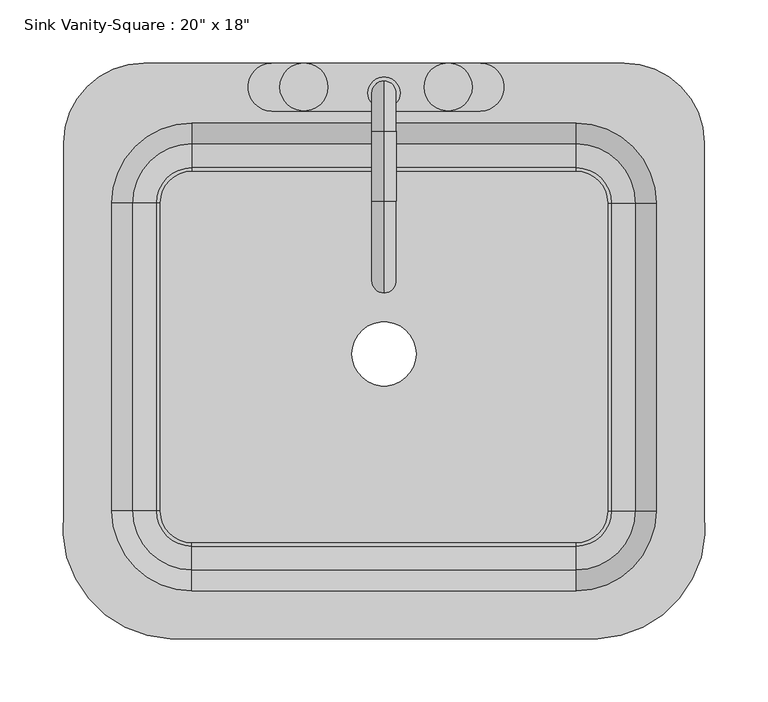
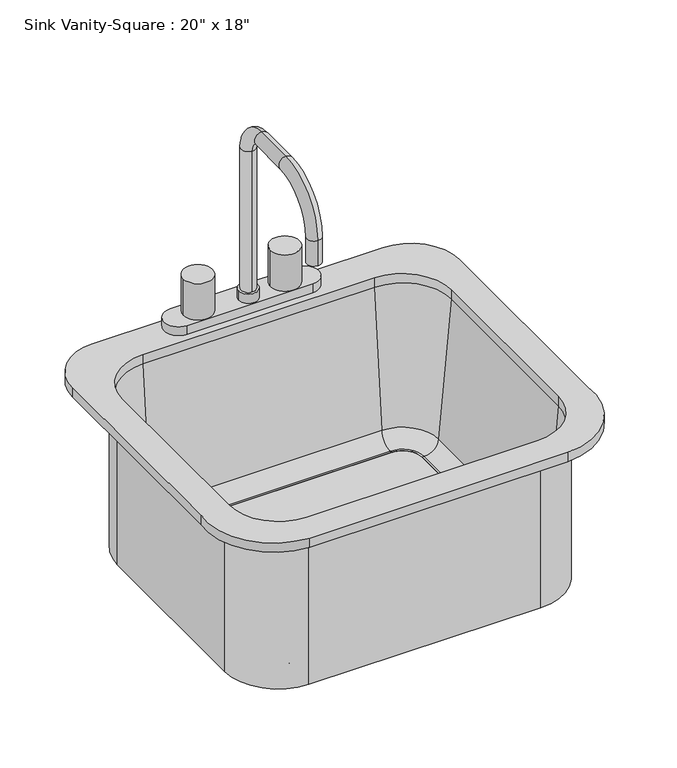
"""IFC4 building model written with IfcOpenShell, lengths in millimetres: flow terminal geometry."""

from ifc_helpers import new_model, si_unit, point, frame, frame_2d, origin, place, context, project, spatial, polyline, circle_curve, ellipse_curve, trimmed, segment, composite_curve, outline, extrude, source, transform, mapped, element, save
from ifc_brep_helpers import plane_surface, cylinder_surface, revolved_surface, advanced_brep


def flow_terminal_62a433f7(model_context):
    return source(origin(), model_context, "Body", "SolidModel", [
        advanced_brep(
        [(-153.9606923, -277.0545989, 800.1), (185.3391735, -277.0545989, 800.1), (269.6892406, -175.4545989, 800.1), (269.6892406, 116.6454011, 800.1), (206.1892406, 180.1454011, 800.1), (-174.8107593, 180.1454011, 800.1), (-238.3107593, 116.6454011, 800.1), (-238.3107593, -175.4545982, 800.1), (168.0892406, 132.5204011, 800.1), (231.5892406, 69.0204011, 800.1), (231.5892406, -175.4545989, 800.1), (168.0892406, -238.9545989, 800.1), (-136.7107594, -238.9545989, 800.1), (-200.2107594, -175.4545989, 800.1), (-200.2107594, 69.0204011, 800.1), (-136.7107594, 132.5204011, 800.1), (-153.9606923, -277.0545989, 787.4), (-238.3107593, -175.4545982, 787.4), (-238.3107593, 116.6454011, 787.4), (-174.8107593, 180.1454011, 787.4), (206.1892406, 180.1454011, 787.4), (269.6892406, 116.6454011, 787.4), (269.6892406, -175.4545989, 787.4), (185.3391735, -277.0545989, 787.4), (237.9392406, 69.0204011, 787.4), (168.0892406, 138.8704011, 787.4), (-136.7107594, 138.8704011, 787.4), (-206.5607594, 69.0204011, 787.4), (-206.5607594, -175.4545989, 787.4), (-136.7107594, -245.3045989, 787.4), (168.0892406, -245.3045989, 787.4), (237.9392406, -175.4545989, 787.4), (168.0892406, 132.5204011, 787.4), (231.5892406, 69.0204011, 787.4), (231.5892406, -175.4545989, 787.4), (168.0892406, -238.9545989, 787.4), (-136.7107594, -238.9545989, 787.4), (-200.2107594, -175.4545989, 787.4), (-200.2107594, 69.0204011, 787.4), (-136.7107594, 132.5204011, 787.4), (237.9392406, 69.0204011, 571.5), (168.0892406, 138.8704011, 571.5), (193.4892406, 69.0204011, 571.5), (168.0892406, 94.4204011, 571.5), (193.4892406, 69.0204011, 581.025), (168.0892406, 94.4204011, 581.025), (196.0776588, 69.0204011, 581.025), (168.0892406, 97.0088193, 581.025), (215.0551678, 69.0204011, 598.4146831), (168.0892406, 115.9863283, 598.4146831), (237.9392406, -175.4545989, 571.5), (193.4892406, -175.4545989, 571.5), (193.4892406, -175.4545989, 581.025), (196.0776588, -175.4545989, 581.025), (215.0551678, -175.4545989, 598.4146831), (168.0892406, -245.3045989, 571.5), (168.0892406, -200.8545989, 571.5), (168.0892406, -200.8545989, 581.025), (168.0892406, -203.4430171, 581.025), (168.0892406, -222.4205261, 598.4146831), (-136.7107594, -245.3045989, 571.5), (-136.7107594, -200.8545989, 571.5), (-136.7107594, -200.8545989, 581.025), (-136.7107594, -203.4430171, 581.025), (-136.7107594, -222.4205261, 598.4146831), (-206.5607594, -175.4545989, 571.5), (-162.1107594, -175.4545989, 571.5), (-162.1107594, -175.4545989, 581.025), (-164.6991776, -175.4545989, 581.025), (-183.6766866, -175.4545989, 598.4146831), (-206.5607594, 69.0204011, 571.5), (-162.1107594, 69.0204011, 571.5), (-162.1107594, 69.0204011, 581.025), (-164.6991776, 69.0204011, 581.025), (-183.6766866, 69.0204011, 598.4146831), (-136.7107594, 138.8704011, 571.5), (-136.7107594, 94.4204011, 571.5), (-136.7107594, 94.4204011, 581.025), (-136.7107594, 97.0088193, 581.025), (-136.7107594, 115.9863283, 598.4146831)],
        [
            (0, 1),
            (1, 2, circle_curve(frame((181.5319557, -188.0793432, 800.1), z_axis=(0.0, 0.0, 1.0), x_axis=(1.0, 0.0, 0.0)), 89.0566732)),
            (2, 3),
            (3, 4, circle_curve(frame((206.1892406, 116.6454011, 800.1), z_axis=(0.0, 0.0, 1.0), x_axis=(1.0, 0.0, 0.0)), 63.5)),
            (4, 5),
            (5, 6, circle_curve(frame((-174.8107593, 116.6454011, 800.1), z_axis=(0.0, 0.0, 1.0), x_axis=(1.0, 0.0, 0.0)), 63.5)),
            (6, 7),
            (7, 0, circle_curve(frame((-150.1534746, -188.0793432, 800.1), z_axis=(0.0, 0.0, 1.0), x_axis=(1.0, 0.0, 0.0)), 89.0566732)),
            (8, 9, circle_curve(frame((168.0892406, 69.0204011, 800.1), z_axis=(0.0, 0.0, -1.0), x_axis=(1.0, 0.0, 0.0)), 63.5)),
            (9, 10),
            (10, 11, circle_curve(frame((168.0892406, -175.4545989, 800.1), z_axis=(0.0, 0.0, -1.0), x_axis=(1.0, 0.0, 0.0)), 63.5)),
            (11, 12),
            (12, 13, circle_curve(frame((-136.7107594, -175.4545989, 800.1), z_axis=(0.0, 0.0, -1.0), x_axis=(1.0, 0.0, 0.0)), 63.5)),
            (13, 14),
            (14, 15, circle_curve(frame((-136.7107594, 69.0204011, 800.1), z_axis=(0.0, 0.0, -1.0), x_axis=(1.0, 0.0, 0.0)), 63.5)),
            (15, 8),
            (16, 17, circle_curve(frame((-150.1534746, -188.0793432, 787.4), z_axis=(0.0, 0.0, -1.0), x_axis=(1.0, 0.0, 0.0)), 89.0566732)),
            (17, 18),
            (18, 19, circle_curve(frame((-174.8107593, 116.6454011, 787.4), z_axis=(0.0, 0.0, -1.0), x_axis=(1.0, 0.0, 0.0)), 63.5)),
            (19, 20),
            (20, 21, circle_curve(frame((206.1892406, 116.6454011, 787.4), z_axis=(0.0, 0.0, -1.0), x_axis=(1.0, 0.0, 0.0)), 63.5)),
            (21, 22),
            (22, 23, circle_curve(frame((181.5319557, -188.0793432, 787.4), z_axis=(0.0, 0.0, -1.0), x_axis=(1.0, 0.0, 0.0)), 89.0566732)),
            (23, 16),
            (24, 25, circle_curve(frame((168.0892406, 69.0204011, 787.4), z_axis=(0.0, 0.0, 1.0), x_axis=(0.0, 1.0, 0.0)), 69.85)),
            (25, 26),
            (26, 27, circle_curve(frame((-136.7107594, 69.0204011, 787.4), z_axis=(0.0, 0.0, 1.0), x_axis=(-1.0, 0.0, 0.0)), 69.85)),
            (27, 28),
            (28, 29, circle_curve(frame((-136.7107594, -175.4545989, 787.4), z_axis=(0.0, 0.0, 1.0), x_axis=(0.0, -1.0, 0.0)), 69.85)),
            (29, 30),
            (30, 31, circle_curve(frame((168.0892406, -175.4545989, 787.4), z_axis=(0.0, 0.0, 1.0), x_axis=(1.0, 0.0, 0.0)), 69.85)),
            (31, 24),
            (0, 16),
            (23, 1),
            (22, 2),
            (21, 3),
            (20, 4),
            (19, 5),
            (18, 6),
            (17, 7),
            (8, 32),
            (32, 33, circle_curve(frame((168.0892406, 69.0204011, 787.4), z_axis=(0.0, 0.0, -1.0), x_axis=(1.0, 0.0, 0.0)), 63.5)),
            (33, 9),
            (33, 34),
            (34, 10),
            (34, 35, circle_curve(frame((168.0892406, -175.4545989, 787.4), z_axis=(0.0, 0.0, -1.0), x_axis=(1.0, 0.0, 0.0)), 63.5)),
            (35, 11),
            (35, 36),
            (36, 12),
            (36, 37, circle_curve(frame((-136.7107594, -175.4545989, 787.4), z_axis=(0.0, 0.0, -1.0), x_axis=(1.0, 0.0, 0.0)), 63.5)),
            (37, 13),
            (37, 38),
            (38, 14),
            (38, 39, circle_curve(frame((-136.7107594, 69.0204011, 787.4), z_axis=(0.0, 0.0, -1.0), x_axis=(1.0, 0.0, 0.0)), 63.5)),
            (39, 15),
            (39, 32),
            (40, 41, circle_curve(frame((168.0892406, 69.0204011, 571.5), z_axis=(0.0, 0.0, 1.0), x_axis=(0.0, 1.0, 0.0)), 69.85)),
            (41, 25),
            (24, 40),
            (40, 42),
            (42, 43, circle_curve(frame((168.0892406, 69.0204011, 571.5), z_axis=(0.0, 0.0, 1.0), x_axis=(0.0, 1.0, 0.0)), 25.4)),
            (43, 41),
            (42, 44),
            (44, 45, circle_curve(frame((168.0892406, 69.0204011, 581.025), z_axis=(0.0, 0.0, 1.0), x_axis=(0.0, 1.0, 0.0)), 25.4)),
            (45, 43),
            (44, 46),
            (46, 47, circle_curve(frame((168.0892406, 69.0204011, 581.025), z_axis=(0.0, 0.0, 1.0), x_axis=(0.0, 1.0, 0.0)), 27.9884182)),
            (47, 45),
            (46, 48, circle_curve(frame((196.0776588, 69.0204011, 600.075), z_axis=(0.0, -1.0, 0.0), x_axis=(1.0, 0.0, 0.0)), 19.05)),
            (48, 49, circle_curve(frame((168.0892406, 69.0204011, 598.4146831), z_axis=(0.0, 0.0, 1.0), x_axis=(0.0, 1.0, 0.0)), 46.9659272)),
            (49, 47, circle_curve(frame((168.0892406, 97.0088193, 600.075), z_axis=(-1.0, 0.0, 0.0), x_axis=(0.0, 1.0, 0.0)), 19.05)),
            (48, 33),
            (32, 49),
            (31, 50),
            (50, 40),
            (50, 51),
            (51, 42),
            (51, 52),
            (52, 44),
            (52, 53),
            (53, 46),
            (53, 54, circle_curve(frame((196.0776588, -175.4545989, 600.075), z_axis=(0.0, -1.0, 0.0), x_axis=(1.0, 0.0, 0.0)), 19.05)),
            (54, 48),
            (54, 34),
            (30, 55),
            (55, 50, circle_curve(frame((168.0892406, -175.4545989, 571.5), z_axis=(0.0, 0.0, 1.0), x_axis=(1.0, 0.0, 0.0)), 69.85)),
            (55, 56),
            (56, 51, circle_curve(frame((168.0892406, -175.4545989, 571.5), z_axis=(0.0, 0.0, 1.0), x_axis=(1.0, 0.0, 0.0)), 25.4)),
            (56, 57),
            (57, 52, circle_curve(frame((168.0892406, -175.4545989, 581.025), z_axis=(0.0, 0.0, 1.0), x_axis=(1.0, 0.0, 0.0)), 25.4)),
            (57, 58),
            (58, 53, circle_curve(frame((168.0892406, -175.4545989, 581.025), z_axis=(0.0, 0.0, 1.0), x_axis=(1.0, 0.0, 0.0)), 27.9884182)),
            (58, 59, circle_curve(frame((168.0892406, -203.4430171, 600.075), z_axis=(-1.0, 0.0, 0.0), x_axis=(0.0, -1.0, 0.0)), 19.05)),
            (59, 54, circle_curve(frame((168.0892406, -175.4545989, 598.4146831), z_axis=(0.0, 0.0, 1.0), x_axis=(1.0, 0.0, 0.0)), 46.9659272)),
            (59, 35),
            (29, 60),
            (60, 55),
            (60, 61),
            (61, 56),
            (61, 62),
            (62, 57),
            (62, 63),
            (63, 58),
            (63, 64, circle_curve(frame((-136.7107594, -203.4430171, 600.075), z_axis=(-1.0, 0.0, 0.0), x_axis=(0.0, -1.0, 0.0)), 19.05)),
            (64, 59),
            (64, 36),
            (28, 65),
            (65, 60, circle_curve(frame((-136.7107594, -175.4545989, 571.5), z_axis=(0.0, 0.0, 1.0), x_axis=(0.0, -1.0, 0.0)), 69.85)),
            (65, 66),
            (66, 61, circle_curve(frame((-136.7107594, -175.4545989, 571.5), z_axis=(0.0, 0.0, 1.0), x_axis=(0.0, -1.0, 0.0)), 25.4)),
            (66, 67),
            (67, 62, circle_curve(frame((-136.7107594, -175.4545989, 581.025), z_axis=(0.0, 0.0, 1.0), x_axis=(0.0, -1.0, 0.0)), 25.4)),
            (67, 68),
            (68, 63, circle_curve(frame((-136.7107594, -175.4545989, 581.025), z_axis=(0.0, 0.0, 1.0), x_axis=(0.0, -1.0, 0.0)), 27.9884182)),
            (68, 69, circle_curve(frame((-164.6991776, -175.4545989, 600.075), z_axis=(0.0, 1.0, 0.0), x_axis=(-1.0, 0.0, 0.0)), 19.05)),
            (69, 64, circle_curve(frame((-136.7107594, -175.4545989, 598.4146831), z_axis=(0.0, 0.0, 1.0), x_axis=(0.0, -1.0, 0.0)), 46.9659272)),
            (69, 37),
            (27, 70),
            (70, 65),
            (70, 71),
            (71, 66),
            (71, 72),
            (72, 67),
            (72, 73),
            (73, 68),
            (73, 74, circle_curve(frame((-164.6991776, 69.0204011, 600.075), z_axis=(0.0, 1.0, 0.0), x_axis=(-1.0, 0.0, 0.0)), 19.05)),
            (74, 69),
            (74, 38),
            (26, 75),
            (75, 70, circle_curve(frame((-136.7107594, 69.0204011, 571.5), z_axis=(0.0, 0.0, 1.0), x_axis=(-1.0, 0.0, 0.0)), 69.85)),
            (75, 76),
            (76, 71, circle_curve(frame((-136.7107594, 69.0204011, 571.5), z_axis=(0.0, 0.0, 1.0), x_axis=(-1.0, 0.0, 0.0)), 25.4)),
            (76, 77),
            (77, 72, circle_curve(frame((-136.7107594, 69.0204011, 581.025), z_axis=(0.0, 0.0, 1.0), x_axis=(-1.0, 0.0, 0.0)), 25.4)),
            (77, 78),
            (78, 73, circle_curve(frame((-136.7107594, 69.0204011, 581.025), z_axis=(0.0, 0.0, 1.0), x_axis=(-1.0, 0.0, 0.0)), 27.9884182)),
            (78, 79, circle_curve(frame((-136.7107594, 97.0088193, 600.075), z_axis=(1.0, 0.0, 0.0), x_axis=(0.0, 1.0, 0.0)), 19.05)),
            (79, 74, circle_curve(frame((-136.7107594, 69.0204011, 598.4146831), z_axis=(0.0, 0.0, 1.0), x_axis=(-1.0, 0.0, 0.0)), 46.9659272)),
            (79, 39),
            (41, 75),
            (43, 76),
            (45, 77),
            (47, 78),
            (49, 79),
        ],
        [
            plane_surface(frame((185.3391735, -277.0545989, 800.1), z_axis=(0.0, 0.0, 1.0), x_axis=(1.0, 0.0, 0.0))),
            plane_surface(frame((185.3391735, -277.0545989, 787.4), z_axis=(0.0, 0.0, -1.0), x_axis=(-1.0, 0.0, 0.0))),
            plane_surface(frame((-153.9606923, -277.0545989, 800.1), z_axis=(0.0, -1.0, 0.0), x_axis=(0.0, 0.0, -1.0))),
            cylinder_surface(frame((181.5319557, -188.0793432, 787.4), z_axis=(0.0, 0.0, 1.0), x_axis=(1.0, 0.0, 0.0)), 89.0566732),
            plane_surface(frame((269.6892406, -175.4545989, 800.1), z_axis=(1.0, 0.0, 0.0), x_axis=(0.0, 0.0, -1.0))),
            cylinder_surface(frame((206.1892406, 116.6454011, 787.4), z_axis=(0.0, 0.0, 1.0), x_axis=(1.0, 0.0, 0.0)), 63.5),
            plane_surface(frame((206.1892406, 180.1454011, 800.1), z_axis=(0.0, 1.0, 0.0), x_axis=(0.0, 0.0, -1.0))),
            cylinder_surface(frame((-174.8107593, 116.6454011, 787.4), z_axis=(0.0, 0.0, 1.0), x_axis=(1.0, 0.0, 0.0)), 63.5),
            plane_surface(frame((-238.3107593, 116.6454011, 800.1), z_axis=(-1.0, 0.0, 0.0), x_axis=(0.0, 0.0, -1.0))),
            cylinder_surface(frame((-150.1534746, -188.0793432, 787.4), z_axis=(0.0, 0.0, 1.0), x_axis=(1.0, 0.0, 0.0)), 89.0566732),
            revolved_surface(polyline([(231.5892406, 69.0204011, 787.4), (231.5892406, 69.0204011, 800.1)]), (168.0892406, 69.0204011, 0.0), (0.0, 0.0, -1.0)),
            plane_surface(frame((231.5892406, 69.0204011, 800.1), z_axis=(-1.0, 0.0, 0.0), x_axis=(0.0, 0.0, -1.0))),
            revolved_surface(polyline([(231.5892406, -175.4545989, 787.4), (231.5892406, -175.4545989, 800.1)]), (168.0892406, -175.4545989, 0.0), (0.0, 0.0, -1.0)),
            plane_surface(frame((168.0892406, -238.9545989, 800.1), z_axis=(0.0, 1.0, 0.0), x_axis=(0.0, 0.0, -1.0))),
            revolved_surface(polyline([(-73.2107594, -175.4545989, 787.4), (-73.2107594, -175.4545989, 800.1)]), (-136.7107594, -175.4545989, 0.0), (0.0, 0.0, -1.0)),
            plane_surface(frame((-200.2107594, -175.4545989, 800.1), z_axis=(1.0, 0.0, 0.0), x_axis=(0.0, 0.0, -1.0))),
            revolved_surface(polyline([(-73.2107594, 69.0204011, 787.4), (-73.2107594, 69.0204011, 800.1)]), (-136.7107594, 69.0204011, 0.0), (0.0, 0.0, -1.0)),
            plane_surface(frame((-136.7107594, 132.5204011, 800.1), z_axis=(0.0, -1.0, 0.0), x_axis=(0.0, 0.0, -1.0))),
            cylinder_surface(frame((168.0892406, 69.0204011, 0.0), z_axis=(0.0, 0.0, -1.0), x_axis=(0.0, 1.0, 0.0)), 69.85),
            plane_surface(frame((168.0892406, 69.0204011, 571.5), z_axis=(0.0, 0.0, -1.0), x_axis=(0.0, 1.0, 0.0))),
            revolved_surface(polyline([(168.0892406, 94.42040109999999, 571.5), (168.0892406, 94.42040109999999, 581.025)]), (168.0892406, 69.0204011, 0.0), (0.0, 0.0, -1.0)),
            plane_surface(frame((168.0892406, 69.0204011, 581.025), z_axis=(0.0, 0.0, 1.0), x_axis=(0.0, 1.0, 0.0))),
            revolved_surface(trimmed(ellipse_curve(frame((168.0892406, 97.0088193, 600.075), z_axis=(1.0, 0.0, 0.0), x_axis=(0.0, 1.0, 0.0)), 19.05, 19.05), [point((168.0892406, 97.0088193, 581.025))], [point((168.0892406, 115.9863283, 598.4146831))], True, "CARTESIAN"), (168.0892406, 69.0204011, 0.0), (0.0, 0.0, -1.0)),
            revolved_surface(polyline([(168.0892406, 115.9863283, 598.4146831), (168.0892406, 132.5204011, 787.4)]), (168.0892406, 69.0204011, 0.0), (0.0, 0.0, -1.0)),
            plane_surface(frame((237.9392406, 69.0204011, 787.4), z_axis=(1.0, 0.0, 0.0), x_axis=(0.0, -1.0, 0.0))),
            plane_surface(frame((237.9392406, 69.0204011, 571.5), z_axis=(0.0, 0.0, -1.0), x_axis=(0.0, -1.0, 0.0))),
            plane_surface(frame((193.4892406, 69.0204011, 571.5), z_axis=(-1.0, 0.0, 0.0), x_axis=(0.0, -1.0, 0.0))),
            plane_surface(frame((193.4892406, 69.0204011, 581.025), z_axis=(0.0, 0.0, 1.0), x_axis=(0.0, -1.0, 0.0))),
            revolved_surface(polyline([(215.1276588, -175.4545989, 600.075), (215.1276588, 69.0204011, 600.075)]), (196.0776588, 69.0204011, 600.075), (0.0, -1.0, 0.0)),
            plane_surface(frame((215.0551678, 69.0204011, 598.4146831), z_axis=(-0.9961946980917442, 0.0, 0.08715574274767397), x_axis=(0.0, -1.0, 0.0))),
            cylinder_surface(frame((168.0892406, -175.4545989, 0.0), z_axis=(0.0, 0.0, -1.0), x_axis=(1.0, 0.0, 0.0)), 69.85),
            plane_surface(frame((168.0892406, -175.4545989, 571.5), z_axis=(0.0, 0.0, -1.0), x_axis=(1.0, 0.0, 0.0))),
            revolved_surface(polyline([(193.48924060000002, -175.4545989, 571.5), (193.48924060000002, -175.4545989, 581.025)]), (168.0892406, -175.4545989, 0.0), (0.0, 0.0, -1.0)),
            plane_surface(frame((168.0892406, -175.4545989, 581.025), z_axis=(0.0, 0.0, 1.0), x_axis=(1.0, 0.0, 0.0))),
            revolved_surface(trimmed(ellipse_curve(frame((196.0776588, -175.4545989, 600.075), z_axis=(0.0, -1.0, 0.0), x_axis=(1.0, 0.0, 0.0)), 19.05, 19.05), [point((196.0776588, -175.4545989, 581.025))], [point((215.0551678, -175.4545989, 598.4146831))], True, "CARTESIAN"), (168.0892406, -175.4545989, 0.0), (0.0, 0.0, -1.0)),
            revolved_surface(polyline([(215.0551678, -175.4545989, 598.4146831), (231.5892406, -175.4545989, 787.4)]), (168.0892406, -175.4545989, 0.0), (0.0, 0.0, -1.0)),
            plane_surface(frame((168.0892406, -245.3045989, 787.4), z_axis=(0.0, -1.0, 0.0), x_axis=(-1.0, 0.0, 0.0))),
            plane_surface(frame((168.0892406, -245.3045989, 571.5), z_axis=(0.0, 0.0, -1.0), x_axis=(-1.0, 0.0, 0.0))),
            plane_surface(frame((168.0892406, -200.8545989, 571.5), z_axis=(0.0, 1.0, 0.0), x_axis=(-1.0, 0.0, 0.0))),
            plane_surface(frame((168.0892406, -200.8545989, 581.025), z_axis=(0.0, 0.0, 1.0), x_axis=(-1.0, 0.0, 0.0))),
            revolved_surface(polyline([(-136.7107594, -222.4930171, 600.075), (168.0892406, -222.4930171, 600.075)]), (168.0892406, -203.4430171, 600.075), (-1.0, 0.0, 0.0)),
            plane_surface(frame((168.0892406, -222.4205261, 598.4146831), z_axis=(0.0, 0.9961946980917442, 0.08715574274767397), x_axis=(-1.0, 0.0, 0.0))),
            cylinder_surface(frame((-136.7107594, -175.4545989, 0.0), z_axis=(0.0, 0.0, -1.0), x_axis=(0.0, -1.0, 0.0)), 69.85),
            plane_surface(frame((-136.7107594, -175.4545989, 571.5), z_axis=(0.0, 0.0, -1.0), x_axis=(0.0, -1.0, 0.0))),
            revolved_surface(polyline([(-136.7107594, -200.8545989, 571.5), (-136.7107594, -200.8545989, 581.025)]), (-136.7107594, -175.4545989, 0.0), (0.0, 0.0, -1.0)),
            plane_surface(frame((-136.7107594, -175.4545989, 581.025), z_axis=(0.0, 0.0, 1.0), x_axis=(0.0, -1.0, 0.0))),
            revolved_surface(trimmed(ellipse_curve(frame((-136.7107594, -203.4430171, 600.075), z_axis=(-1.0, 0.0, 0.0), x_axis=(0.0, -1.0, 0.0)), 19.05, 19.05), [point((-136.7107594, -203.4430171, 581.025))], [point((-136.7107594, -222.4205261, 598.4146831))], True, "CARTESIAN"), (-136.7107594, -175.4545989, 0.0), (0.0, 0.0, -1.0)),
            revolved_surface(polyline([(-136.7107594, -222.4205261, 598.4146831), (-136.7107594, -238.9545989, 787.4)]), (-136.7107594, -175.4545989, 0.0), (0.0, 0.0, -1.0)),
            plane_surface(frame((-206.5607594, -175.4545989, 787.4), z_axis=(-1.0, 0.0, 0.0), x_axis=(0.0, 1.0, 0.0))),
            plane_surface(frame((-206.5607594, -175.4545989, 571.5), z_axis=(0.0, 0.0, -1.0), x_axis=(0.0, 1.0, 0.0))),
            plane_surface(frame((-162.1107594, -175.4545989, 571.5), z_axis=(1.0, 0.0, 0.0), x_axis=(0.0, 1.0, 0.0))),
            plane_surface(frame((-162.1107594, -175.4545989, 581.025), z_axis=(0.0, 0.0, 1.0), x_axis=(0.0, 1.0, 0.0))),
            revolved_surface(polyline([(-183.74917760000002, 69.02040110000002, 600.075), (-183.74917760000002, -175.4545989, 600.075)]), (-164.6991776, -175.4545989, 600.075), (0.0, 1.0, 0.0)),
            plane_surface(frame((-183.6766866, -175.4545989, 598.4146831), z_axis=(0.9961946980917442, 0.0, 0.08715574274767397), x_axis=(0.0, 1.0, 0.0))),
            cylinder_surface(frame((-136.7107594, 69.0204011, 0.0), z_axis=(0.0, 0.0, -1.0), x_axis=(-1.0, 0.0, 0.0)), 69.85),
            plane_surface(frame((-136.7107594, 69.0204011, 571.5), z_axis=(0.0, 0.0, -1.0), x_axis=(-1.0, 0.0, 0.0))),
            revolved_surface(polyline([(-162.1107594, 69.0204011, 571.5), (-162.1107594, 69.0204011, 581.025)]), (-136.7107594, 69.0204011, 0.0), (0.0, 0.0, -1.0)),
            plane_surface(frame((-136.7107594, 69.0204011, 581.025), z_axis=(0.0, 0.0, 1.0), x_axis=(-1.0, 0.0, 0.0))),
            revolved_surface(trimmed(ellipse_curve(frame((-164.6991776, 69.0204011, 600.075), z_axis=(0.0, 1.0, 0.0), x_axis=(-1.0, 0.0, 0.0)), 19.05, 19.05), [point((-164.6991776, 69.0204011, 581.025))], [point((-183.6766866, 69.0204011, 598.4146831))], True, "CARTESIAN"), (-136.7107594, 69.0204011, 0.0), (0.0, 0.0, -1.0)),
            revolved_surface(polyline([(-183.6766866, 69.0204011, 598.4146831), (-200.2107594, 69.0204011, 787.4)]), (-136.7107594, 69.0204011, 0.0), (0.0, 0.0, -1.0)),
            plane_surface(frame((-136.7107594, 138.8704011, 787.4), z_axis=(0.0, 1.0, 0.0), x_axis=(1.0, 0.0, 0.0))),
            plane_surface(frame((-136.7107594, 138.8704011, 571.5), z_axis=(0.0, 0.0, -1.0), x_axis=(1.0, 0.0, 0.0))),
            plane_surface(frame((-136.7107594, 94.4204011, 571.5), z_axis=(0.0, -1.0, 0.0), x_axis=(1.0, 0.0, 0.0))),
            plane_surface(frame((-136.7107594, 94.4204011, 581.025), z_axis=(0.0, 0.0, 1.0), x_axis=(1.0, 0.0, 0.0))),
            revolved_surface(polyline([(168.0892406, 116.0588193, 600.075), (-136.7107594, 116.0588193, 600.075)]), (-136.7107594, 97.0088193, 600.075), (1.0, 0.0, 0.0)),
            plane_surface(frame((-136.7107594, 115.9863283, 598.4146831), z_axis=(0.0, -0.9961946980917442, 0.08715574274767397), x_axis=(1.0, 0.0, 0.0))),
        ],
        [
            (0, [[1, 2, 3, 4, 5, 6, 7, 8], [9, 10, 11, 12, 13, 14, 15, 16]]),
            (1, [[17, 18, 19, 20, 21, 22, 23, 24], [25, 26, 27, 28, 29, 30, 31, 32]]),
            (2, [[-1, 33, -24, 34]]),
            (3, [[-2, -34, -23, 35]]),
            (4, [[-3, -35, -22, 36]]),
            (5, [[-4, -36, -21, 37]]),
            (6, [[-5, -37, -20, 38]]),
            (7, [[-6, -38, -19, 39]]),
            (8, [[-7, -39, -18, 40]]),
            (9, [[-8, -40, -17, -33]]),
            (10, [[-9, 41, 42, 43]]),
            (11, [[-10, -43, 44, 45]]),
            (12, [[-11, -45, 46, 47]]),
            (13, [[-12, -47, 48, 49]]),
            (14, [[-13, -49, 50, 51]]),
            (15, [[-14, -51, 52, 53]]),
            (16, [[-15, -53, 54, 55]]),
            (17, [[-16, -55, 56, -41]]),
            (18, [[57, 58, -25, 59]]),
            (19, [[-57, 60, 61, 62]]),
            (20, [[-61, 63, 64, 65]]),
            (21, [[-64, 66, 67, 68]]),
            (22, [[-67, 69, 70, 71]]),
            (23, [[-70, 72, -42, 73]]),
            (24, [[-59, -32, 74, 75]]),
            (25, [[-60, -75, 76, 77]]),
            (26, [[-63, -77, 78, 79]]),
            (27, [[-66, -79, 80, 81]]),
            (28, [[-69, -81, 82, 83]]),
            (29, [[-72, -83, 84, -44]]),
            (30, [[-74, -31, 85, 86]]),
            (31, [[-76, -86, 87, 88]]),
            (32, [[-78, -88, 89, 90]]),
            (33, [[-80, -90, 91, 92]]),
            (34, [[-82, -92, 93, 94]]),
            (35, [[-84, -94, 95, -46]]),
            (36, [[-85, -30, 96, 97]]),
            (37, [[-87, -97, 98, 99]]),
            (38, [[-89, -99, 100, 101]]),
            (39, [[-91, -101, 102, 103]]),
            (40, [[-93, -103, 104, 105]]),
            (41, [[-95, -105, 106, -48]]),
            (42, [[-96, -29, 107, 108]]),
            (43, [[-98, -108, 109, 110]]),
            (44, [[-100, -110, 111, 112]]),
            (45, [[-102, -112, 113, 114]]),
            (46, [[-104, -114, 115, 116]]),
            (47, [[-106, -116, 117, -50]]),
            (48, [[-107, -28, 118, 119]]),
            (49, [[-109, -119, 120, 121]]),
            (50, [[-111, -121, 122, 123]]),
            (51, [[-113, -123, 124, 125]]),
            (52, [[-115, -125, 126, 127]]),
            (53, [[-117, -127, 128, -52]]),
            (54, [[-118, -27, 129, 130]]),
            (55, [[-120, -130, 131, 132]]),
            (56, [[-122, -132, 133, 134]]),
            (57, [[-124, -134, 135, 136]]),
            (58, [[-126, -136, 137, 138]]),
            (59, [[-128, -138, 139, -54]]),
            (60, [[-58, 140, -129, -26]]),
            (61, [[-62, 141, -131, -140]]),
            (62, [[-65, 142, -133, -141]]),
            (63, [[-68, 143, -135, -142]]),
            (64, [[-71, 144, -137, -143]]),
            (65, [[-73, -56, -139, -144]]),
        ],
    ),
        advanced_brep(
        [(91.8892406, 180.1454011, 800.1), (91.8892406, 142.0454011, 800.1), (-73.2107594, 142.0454011, 800.1), (-73.2107594, 180.1454011, 800.1), (15.6892406, 165.8579011, 1020.7625), (15.6892406, 146.8079011, 1020.7625), (15.6892406, 146.8079011, 825.5), (15.6892406, 165.8579011, 825.5), (15.6892406, 126.1704011, 1060.45), (15.6892406, 126.1704011, 1041.4), (15.6892406, 70.6079011, 1060.45), (15.6892406, 70.6079011, 1041.4), (15.6892406, -2.4170989, 987.425), (15.6892406, 16.6329011, 987.425), (15.6892406, -2.4170989, 952.5), (15.6892406, 16.6329011, 952.5), (2.9892406, 156.3329011, 825.5), (28.3892406, 156.3329011, 825.5), (2.9892406, 156.3329011, 812.8), (28.3892406, 156.3329011, 812.8), (91.8892406, 180.1454011, 812.8), (-73.2107594, 180.1454011, 812.8), (-73.2107594, 142.0454011, 812.8), (91.8892406, 142.0454011, 812.8)],
        [
            (0, 1, circle_curve(frame((91.8892406, 161.0954011, 800.1), z_axis=(0.0, 0.0, -1.0), x_axis=(1.0, 0.0, 0.0)), 19.05)),
            (1, 2),
            (2, 3, circle_curve(frame((-73.2107594, 161.0954011, 800.1), z_axis=(0.0, 0.0, -1.0), x_axis=(1.0, 0.0, 0.0)), 19.05)),
            (3, 0),
            (4, 5, circle_curve(frame((15.6892406, 156.3329011, 1020.7625), z_axis=(0.0, 0.0, -1.0), x_axis=(0.0, -1.0, 0.0)), 9.525)),
            (5, 6),
            (6, 7, circle_curve(frame((15.6892406, 156.3329011, 825.5), z_axis=(0.0, 0.0, 1.0), x_axis=(0.0, -1.0, 0.0)), 9.525)),
            (7, 4),
            (5, 4, circle_curve(frame((15.6892406, 156.3329011, 1020.7625), z_axis=(0.0, 0.0, -1.0), x_axis=(0.0, -1.0, 0.0)), 9.525)),
            (7, 6, circle_curve(frame((15.6892406, 156.3329011, 825.5), z_axis=(0.0, 0.0, 1.0), x_axis=(0.0, -1.0, 0.0)), 9.525)),
            (4, 8, circle_curve(frame((15.6892406, 126.1704011, 1020.7625), z_axis=(1.0, 0.0, 0.0), x_axis=(0.0, 1.0, 0.0)), 39.6875)),
            (8, 9, circle_curve(frame((15.6892406, 126.1704011, 1050.925), z_axis=(0.0, 1.0, 0.0), x_axis=(0.0, 0.0, -1.0)), 9.525)),
            (9, 5, circle_curve(frame((15.6892406, 126.1704011, 1020.7625), z_axis=(-1.0, 0.0, 0.0), x_axis=(0.0, 1.0, 0.0)), 20.6375)),
            (9, 8, circle_curve(frame((15.6892406, 126.1704011, 1050.925), z_axis=(0.0, 1.0, 0.0), x_axis=(0.0, 0.0, -1.0)), 9.525)),
            (8, 10),
            (10, 11, circle_curve(frame((15.6892406, 70.6079011, 1050.925), z_axis=(0.0, 1.0, 0.0), x_axis=(0.0, 0.0, -1.0)), 9.525)),
            (11, 9),
            (11, 10, circle_curve(frame((15.6892406, 70.6079011, 1050.925), z_axis=(0.0, 1.0, 0.0), x_axis=(0.0, 0.0, -1.0)), 9.525)),
            (10, 12, circle_curve(frame((15.6892406, 70.6079011, 987.425), z_axis=(1.0, 0.0, 0.0), x_axis=(0.0, 0.0, 1.0)), 73.025)),
            (12, 13, circle_curve(frame((15.6892406, 7.1079011, 987.425), z_axis=(0.0, 0.0, 1.0), x_axis=(0.0, 1.0, 0.0)), 9.525)),
            (13, 11, circle_curve(frame((15.6892406, 70.6079011, 987.425), z_axis=(-1.0, 0.0, 0.0), x_axis=(0.0, 0.0, 1.0)), 53.975)),
            (13, 12, circle_curve(frame((15.6892406, 7.1079011, 987.425), z_axis=(0.0, 0.0, 1.0), x_axis=(0.0, 1.0, 0.0)), 9.525)),
            (14, 15, circle_curve(frame((15.6892406, 7.1079011, 952.5), z_axis=(0.0, 0.0, -1.0), x_axis=(0.0, 1.0, 0.0)), 9.525)),
            (15, 14, circle_curve(frame((15.6892406, 7.1079011, 952.5), z_axis=(0.0, 0.0, -1.0), x_axis=(0.0, 1.0, 0.0)), 9.525)),
            (12, 14),
            (15, 13),
            (16, 17, circle_curve(frame((15.6892406, 156.3329011, 825.5), z_axis=(0.0, 0.0, 1.0), x_axis=(1.0, 0.0, 0.0)), 12.7)),
            (17, 16, circle_curve(frame((15.6892406, 156.3329011, 825.5), z_axis=(0.0, 0.0, 1.0), x_axis=(1.0, 0.0, 0.0)), 12.7)),
            (16, 18),
            (18, 19, circle_curve(frame((15.6892406, 156.3329011, 812.8), z_axis=(0.0, 0.0, 1.0), x_axis=(1.0, 0.0, 0.0)), 12.7)),
            (19, 17),
            (19, 18, circle_curve(frame((15.6892406, 156.3329011, 812.8), z_axis=(0.0, 0.0, 1.0), x_axis=(1.0, 0.0, 0.0)), 12.7)),
            (20, 21),
            (21, 22, circle_curve(frame((-73.2107594, 161.0954011, 812.8), z_axis=(0.0, 0.0, 1.0), x_axis=(1.0, 0.0, 0.0)), 19.05)),
            (22, 23),
            (23, 20, circle_curve(frame((91.8892406, 161.0954011, 812.8), z_axis=(0.0, 0.0, 1.0), x_axis=(1.0, 0.0, 0.0)), 19.05)),
            (20, 0),
            (3, 21),
            (2, 22),
            (1, 23),
        ],
        [
            plane_surface(frame((15.6892406, 146.8079011, 800.1), z_axis=(0.0, 0.0, -1.0), x_axis=(1.0, 0.0, 0.0))),
            cylinder_surface(frame((15.6892406, 156.3329011, 800.1), z_axis=(0.0, 0.0, -1.0), x_axis=(0.0, -1.0, 0.0)), 9.525),
            revolved_surface(trimmed(ellipse_curve(frame((15.6892406, 156.3329011, 1020.7625), z_axis=(0.0, 0.0, -1.0), x_axis=(0.0, -1.0, 0.0)), 9.525, 9.525), [point((15.6892406, 165.8579011, 1020.7625))], [point((15.6892406, 146.8079011, 1020.7625))], True, "CARTESIAN"), (15.6892406, 126.1704011, 1020.7625), (1.0, 0.0, 0.0)),
            revolved_surface(trimmed(ellipse_curve(frame((15.6892406, 156.3329011, 1020.7625), z_axis=(0.0, 0.0, -1.0), x_axis=(0.0, -1.0, 0.0)), 9.525, 9.525), [point((15.6892406, 146.8079011, 1020.7625))], [point((15.6892406, 165.8579011, 1020.7625))], True, "CARTESIAN"), (15.6892406, 126.1704011, 1020.7625), (1.0, 0.0, 0.0)),
            cylinder_surface(frame((15.6892406, 126.1704011, 1050.925), z_axis=(0.0, 1.0, 0.0), x_axis=(0.0, 0.0, -1.0)), 9.525),
            revolved_surface(trimmed(ellipse_curve(frame((15.6892406, 70.6079011, 1050.925), z_axis=(0.0, 1.0, 0.0), x_axis=(0.0, 0.0, -1.0)), 9.525, 9.525), [point((15.6892406, 70.6079011, 1060.45))], [point((15.6892406, 70.6079011, 1041.4))], True, "CARTESIAN"), (15.6892406, 70.6079011, 987.425), (1.0, 0.0, 0.0)),
            revolved_surface(trimmed(ellipse_curve(frame((15.6892406, 70.6079011, 1050.925), z_axis=(0.0, 1.0, 0.0), x_axis=(0.0, 0.0, -1.0)), 9.525, 9.525), [point((15.6892406, 70.6079011, 1041.4))], [point((15.6892406, 70.6079011, 1060.45))], True, "CARTESIAN"), (15.6892406, 70.6079011, 987.425), (1.0, 0.0, 0.0)),
            plane_surface(frame((15.6892406, -2.4170989, 952.5), z_axis=(0.0, 0.0, -1.0), x_axis=(-1.0, 0.0, 0.0))),
            cylinder_surface(frame((15.6892406, 7.1079011, 987.425), z_axis=(0.0, 0.0, 1.0), x_axis=(0.0, 1.0, 0.0)), 9.525),
            plane_surface(frame((28.3892406, 156.3329011, 825.5), z_axis=(0.0, 0.0, 1.0), x_axis=(0.0, 1.0, 0.0))),
            cylinder_surface(frame((15.6892406, 156.3329011, 812.8), z_axis=(0.0, 0.0, 1.0), x_axis=(1.0, 0.0, 0.0)), 12.7),
            plane_surface(frame((-73.2107594, 180.1454011, 812.8), z_axis=(0.0, 0.0, 1.0), x_axis=(-1.0, 0.0, 0.0))),
            plane_surface(frame((91.8892406, 180.1454011, 812.8), z_axis=(0.0, 1.0, 0.0), x_axis=(0.0, 0.0, -1.0))),
            cylinder_surface(frame((-73.2107594, 161.0954011, 800.1), z_axis=(0.0, 0.0, 1.0), x_axis=(1.0, 0.0, 0.0)), 19.05),
            plane_surface(frame((-73.2107594, 142.0454011, 812.8), z_axis=(0.0, -1.0, 0.0), x_axis=(0.0, 0.0, -1.0))),
            cylinder_surface(frame((91.8892406, 161.0954011, 800.1), z_axis=(0.0, 0.0, 1.0), x_axis=(1.0, 0.0, 0.0)), 19.05),
        ],
        [
            (0, [[1, 2, 3, 4]]),
            (1, [[5, 6, 7, 8]]),
            (1, [[9, -8, 10, -6]]),
            (2, [[-5, 11, 12, 13]]),
            (3, [[-9, -13, 14, -11]]),
            (4, [[-12, 15, 16, 17]]),
            (4, [[-14, -17, 18, -15]]),
            (5, [[-16, 19, 20, 21]]),
            (6, [[-18, -21, 22, -19]]),
            (7, [[23, 24]]),
            (8, [[-20, 25, -24, 26]]),
            (8, [[-22, -26, -23, -25]]),
            (9, [[27, 28], [-7, -10]]),
            (10, [[-27, 29, 30, 31]]),
            (10, [[-28, -31, 32, -29]]),
            (11, [[33, 34, 35, 36], [-30, -32]]),
            (12, [[-33, 37, -4, 38]]),
            (13, [[-34, -38, -3, 39]]),
            (14, [[-35, -39, -2, 40]]),
            (15, [[-36, -40, -1, -37]]),
        ],
    ),
        extrude(outline(composite_curve([segment(trimmed(circle_curve(frame_2d((-47.8107594, 161.0954011)), 19.05), [point((-66.8607594, 161.0954011))], [point((-28.7607594, 161.0954011))], False, "CARTESIAN"), True, "CONTINUOUS"), segment(trimmed(circle_curve(frame_2d((-47.8107594, 161.0954011)), 19.05), [point((-28.7607594, 161.0954011))], [point((-66.8607594, 161.0954011))], False, "CARTESIAN"), True, "CONTINUOUS")], self_intersect=False)), frame((0.0, 0.0, 812.8), z_axis=(0.0, 0.0, 1.0), x_axis=(1.0, 0.0, 0.0)), (0.0, 0.0, 1.0), 50.8),
        extrude(outline(composite_curve([segment(trimmed(circle_curve(frame_2d((66.4892406, 161.0954011)), 19.05), [point((47.4392406, 161.0954011))], [point((85.5392406, 161.0954011))], False, "CARTESIAN"), True, "CONTINUOUS"), segment(trimmed(circle_curve(frame_2d((66.4892406, 161.0954011)), 19.05), [point((85.5392406, 161.0954011))], [point((47.4392406, 161.0954011))], False, "CARTESIAN"), True, "CONTINUOUS")], self_intersect=False)), frame((0.0, 0.0, 812.8), z_axis=(0.0, 0.0, 1.0), x_axis=(1.0, 0.0, 0.0)), (0.0, 0.0, 1.0), 50.8),
        extrude(outline(composite_curve([segment(trimmed(circle_curve(frame_2d((168.0892406, 69.0204011)), 25.4), [point((168.0892406, 94.4204011))], [point((193.4892406, 69.0204011))], False, "CARTESIAN"), True, "CONTINUOUS"), segment(polyline([(193.4892406, 69.0204011), (193.4892406, -175.4545989)]), True, "CONTINUOUS"), segment(trimmed(circle_curve(frame_2d((168.0892406, -175.4545989)), 25.4), [point((193.4892406, -175.4545989))], [point((168.0892406, -200.8545989))], False, "CARTESIAN"), True, "CONTINUOUS"), segment(polyline([(168.0892406, -200.8545989), (-136.7107594, -200.8545989)]), True, "CONTINUOUS"), segment(trimmed(circle_curve(frame_2d((-136.7107594, -175.4545989)), 25.4), [point((-136.7107594, -200.8545989))], [point((-162.1107594, -175.4545989))], False, "CARTESIAN"), True, "CONTINUOUS"), segment(polyline([(-162.1107594, -175.4545989), (-162.1107594, 69.0204011)]), True, "CONTINUOUS"), segment(trimmed(circle_curve(frame_2d((-136.7107594, 69.0204011)), 25.4), [point((-162.1107594, 69.0204011))], [point((-136.7107594, 94.4204011))], False, "CARTESIAN"), True, "CONTINUOUS"), segment(polyline([(-136.7107594, 94.4204011), (168.0892406, 94.4204011)]), True, "CONTINUOUS")], self_intersect=False), holes=[composite_curve([segment(trimmed(circle_curve(frame_2d((15.6892406, -50.8)), 25.4), [point((-9.7107594, -50.8))], [point((41.0892406, -50.8))], True, "CARTESIAN"), True, "CONTINUOUS"), segment(trimmed(circle_curve(frame_2d((15.6892406, -50.8)), 25.4), [point((41.0892406, -50.8))], [point((-9.7107594, -50.8))], True, "CARTESIAN"), True, "CONTINUOUS")], self_intersect=False)]), frame((0.0, 0.0, 571.5), z_axis=(0.0, 0.0, 1.0), x_axis=(1.0, 0.0, 0.0)), (0.0, 0.0, 1.0), 9.525),
    ])


if __name__ == "__main__":
    model = new_model("IFC4")
    model_context = context("Model", 3, world=origin())
    ifc_project = project(units=[si_unit("LENGTHUNIT", "METRE", prefix="MILLI")], contexts=[model_context])
    site = spatial("IfcSite", under=ifc_project)
    building = spatial("IfcBuilding", under=site)
    placement = place(None, origin())
    flow_terminal_shape = flow_terminal_62a433f7(model_context)
    element("IfcFlowTerminal", 1, ObjectType="Sink Vanity-Square : 20\" x 18\"", at=placement, inside=building, context=model_context, shape_type="MappedRepresentation", body=[
        mapped(flow_terminal_shape, transform((0.0, 0.0, 0.0), x_axis=(1.0, 0.0, 0.0), y_axis=(0.0, 1.0, 0.0), z_axis=(0.0, 0.0, 1.0))),
    ])
    save(model, "model.ifc")
